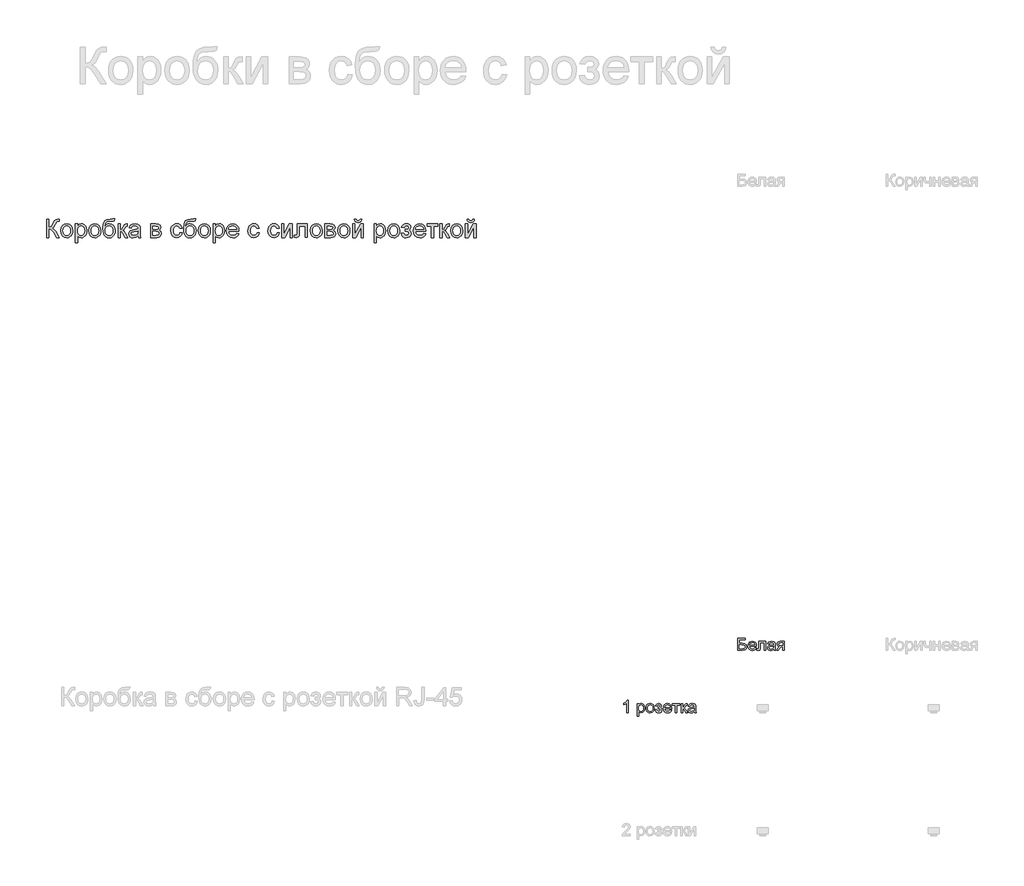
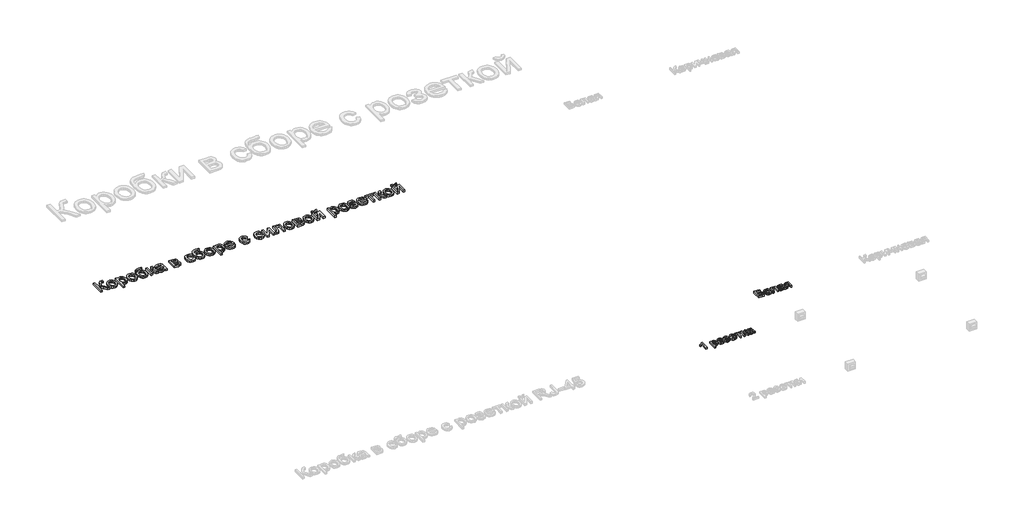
# One storey, part 42 of 48: 3 proxies.
"""IFC4 building model written with IfcOpenShell, lengths in millimetres."""

from ifc_helpers import new_model, si_unit, origin, origin_with_axes, place, context, project, spatial, polyline, outline, extrude, element, save

model = new_model("IFC4")

# Units and contexts
model_context = context("Model", 3, world=origin())
ifc_project = project(units=[si_unit("LENGTHUNIT", "METRE", prefix="MILLI")], contexts=[model_context])

# Site, building, storey
site = spatial("IfcSite", under=ifc_project)
building = spatial("IfcBuilding", under=site)
storey = spatial("IfcBuildingStorey", under=building, Name="Этаж 01", Elevation=0.0)

# Proxies
placement = place(None, origin())
element("IfcBuildingElementProxy", 1, Name="150 мм Arial", ObjectType="150 мм Arial", at=placement, inside=storey, context=model_context, shape_type="SweptSolid", body=[
    extrude(outline(polyline([(53865.2702131, 4103.1517757), (53884.1057713, 4103.1517757), (53884.1057713, 4037.2273222), (53896.8574809, 4038.4735224), (53905.1670155, 4042.2121232), (53919.8639012, 4067.430434), (53930.2565676, 4088.4916782), (53942.0287914, 4098.9211328), (53958.8593927, 4103.1517757), (53971.2202277, 4102.9310465), (53971.2202277, 4084.0954884), (53967.0631612, 4084.205853), (53962.9060947, 4084.3162176), (53948.1908148, 4079.791269), (53937.0072022, 4060.4038879), (53923.6714799, 4036.7858638), (53910.6668513, 4028.9867655), (53925.2073872, 4020.4702973), (53939.545588, 4002.719991), (53971.2202277, 3952.4673105), (53949.3680372, 3952.4673105), (53922.586228, 3994.9208927), (53903.7322757, 4017.0857829), (53895.027268, 4021.5969359), (53884.1057713, 4023.1006536), (53884.1057713, 3952.4673105), (53865.2702131, 3952.4673105), (53865.2702131, 4103.1517757)])), origin_with_axes(), (0.0, 0.0, 1.0), 20.0),
    extrude(outline(polyline([(53980.6380068, 4007.7967626), (53984.7122999, 4034.4774043), (53996.9351792, 4053.230189), (54012.0367351, 4062.4180418), (54030.1181352, 4065.4806594), (54049.905588, 4061.7512557), (54065.7107182, 4050.5630445), (54076.0711949, 4032.7989427), (54079.5246871, 4009.3418669), (54077.9979768, 3990.3131707), (54073.417846, 3975.8278172), (54065.9176518, 3964.9798969), (54055.6307515, 3956.8635003), (54043.4124708, 3951.8005244), (54030.1181352, 3950.1128657), (54010.0915591, 3953.8284739), (53994.3048229, 3964.9752983), (53984.0547108, 3983.1118807), (53980.6380068, 4007.7967626)]), holes=[polyline([(53999.473565, 4007.8335508), (54001.6532658, 3990.7868188), (54008.1923683, 3978.6421144), (54018.0332116, 3971.3718465), (54030.1181352, 3968.9484239), (54042.1478764, 3971.3856421), (54051.9703257, 3978.6972967), (54058.5094281, 3991.0029495), (54060.689129, 4008.422162), (54058.4956326, 4024.9722532), (54051.9151434, 4036.9514107), (54042.0788985, 4044.2216786), (54030.1181352, 4046.6451013), (54018.0332116, 4044.2308757), (54008.1923683, 4036.9881989), (54001.6532658, 4024.8710857), (53999.473565, 4007.8335508)])]), origin_with_axes(), (0.0, 0.0, 1.0), 20.0),
    extrude(outline(polyline([(54100.71469, 3910.0873046), (54100.71469, 4063.1262146), (54119.5502482, 4063.1262146), (54119.5502482, 4044.6585385), (54132.5732708, 4060.2751292), (54150.1580302, 4065.4806594), (54162.8959443, 4063.6596435), (54174.0335717, 4058.1965959), (54183.1018629, 4049.4226103), (54189.6317683, 4037.6687806), (54194.8924808, 4008.6428912), (54193.4071573, 3992.5342583), (54188.9511866, 3978.1270797), (54181.6671231, 3966.1525207), (54171.697521, 3957.3417469), (54160.0862455, 3951.920086), (54147.8771618, 3950.1128657), (54131.4880189, 3954.950514), (54119.5502482, 3967.1825903), (54119.5502482, 3910.0873046), (54100.71469, 3910.0873046)]), holes=[polyline([(54119.5502482, 4006.9138458), (54121.5873947, 3990.0280622), (54127.6988344, 3978.2190502), (54136.7165418, 3971.2660804), (54147.4724916, 3968.9484239), (54158.4031854, 3971.3488539), (54167.6508191, 3978.5501439), (54173.9553968, 3990.7914173), (54176.0569227, 4008.3117974), (54174.0059805, 4025.1056104), (54167.8531542, 4037.0801694), (54158.8492423, 4044.2538683), (54148.2450438, 4046.6451013), (54137.5994586, 4044.102117), (54128.2506574, 4036.4731641), (54121.7253505, 4023.9973659), (54119.5502482, 4006.9138458)])]), origin_with_axes(), (0.0, 0.0, 1.0), 20.0),
    extrude(outline(polyline([(54211.3735942, 4007.7967626), (54215.4478873, 4034.4774043), (54227.6707666, 4053.230189), (54242.7723225, 4062.4180418), (54260.8537225, 4065.4806594), (54280.6411754, 4061.7512557), (54296.4463056, 4050.5630445), (54306.8067823, 4032.7989427), (54310.2602745, 4009.3418669), (54308.7335642, 3990.3131707), (54304.1534334, 3975.8278172), (54296.6532392, 3964.9798969), (54286.3663389, 3956.8635003), (54274.1480581, 3951.8005244), (54260.8537225, 3950.1128657), (54240.8271464, 3953.8284739), (54225.0404103, 3964.9752983), (54214.7902982, 3983.1118807), (54211.3735942, 4007.7967626)]), holes=[polyline([(54230.2091523, 4007.8335508), (54232.3888532, 3990.7868188), (54238.9279556, 3978.6421144), (54248.768799, 3971.3718465), (54260.8537225, 3968.9484239), (54272.8834638, 3971.3856421), (54282.7059131, 3978.6972967), (54289.2450155, 3991.0029495), (54291.4247163, 4008.422162), (54289.2312199, 4024.9722532), (54282.6507308, 4036.9514107), (54272.8144859, 4044.2216786), (54260.8537225, 4046.6451013), (54248.768799, 4044.2308757), (54238.9279556, 4036.9881989), (54232.3888532, 4024.8710857), (54230.2091523, 4007.8335508)])]), origin_with_axes(), (0.0, 0.0, 1.0), 20.0),
    extrude(outline(polyline([(54409.1469548, 4105.5062205), (54425.6280682, 4105.5062205), (54420.7720258, 4090.8093348), (54411.1703058, 4085.4934399), (54388.1041047, 4084.3162176), (54357.0364702, 4079.97521), (54349.9087565, 4074.3282214), (54345.1170935, 4066.0692706), (54341.0887857, 4041.4579651), (54357.4043522, 4059.4841829), (54367.3233705, 4063.9815403), (54378.4288082, 4065.4806594), (54398.0277215, 4061.6684822), (54413.9294207, 4050.2319507), (54424.4692399, 4032.2931049), (54427.982513, 4008.9739849), (54426.239672, 3990.9937524), (54421.0111491, 3976.5635812), (54404.4748535, 3957.0106531), (54393.1808762, 3951.8373126), (54378.4288082, 3950.1128657), (54361.4280615, 3952.3339533), (54348.6855489, 3958.9972159), (54339.3091565, 3969.1231678), (54332.4067706, 3981.7323232), (54328.1577336, 4000.7196327), (54326.7413879, 4029.9800469), (54330.3144418, 4066.1198544), (54341.0336034, 4088.1605844), (54359.1655872, 4099.4039779), (54384.9771077, 4103.1517757), (54405.9463814, 4103.57484), (54409.1469548, 4105.5062205)]), holes=[polyline([(54409.1469548, 4009.5625961), (54407.1052097, 4024.383642), (54400.9799745, 4036.2524349), (54391.1391311, 4044.0469347), (54377.9505616, 4046.6451013), (54364.200972, 4043.8997819), (54354.0014437, 4035.6638237), (54347.6830705, 4022.8385376), (54345.576946, 4006.3252346), (54347.9037997, 3990.3177693), (54354.8843605, 3978.568538), (54365.2770269, 3971.3534524), (54377.840197, 3968.9484239), (54390.4677465, 3971.7305315), (54400.4649397, 3980.0768542), (54406.976451, 3993.0125049), (54409.1469548, 4009.5625961)])]), origin_with_axes(), (0.0, 0.0, 1.0), 20.0),
    extrude(outline(polyline([(54451.5269606, 4063.1262146), (54470.3625188, 4063.1262146), (54470.3625188, 4016.0373193), (54482.9808712, 4019.4218336), (54493.3183553, 4039.1403086), (54501.9083999, 4056.1548508), (54509.486769, 4061.6914749), (54523.2639497, 4063.1262146), (54526.8691933, 4063.1262146), (54526.8691933, 4044.1802919), (54521.7924217, 4044.2906565), (54512.5953718, 4042.3040937), (54506.1206487, 4029.9064705), (54498.5238855, 4016.4971718), (54487.8737018, 4009.9304781), (54499.7562902, 4002.6004294), (54511.4181495, 3987.1585826), (54531.5780828, 3952.4673105), (54510.1673507, 3952.4673105), (54490.4120875, 3986.4228186), (54480.4792737, 4000.7886106), (54470.3625188, 4004.2650954), (54470.3625188, 3952.4673105), (54451.5269606, 3952.4673105), (54451.5269606, 4063.1262146)])), origin_with_axes(), (0.0, 0.0, 1.0), 20.0),
    extrude(outline(polyline([(54613.9836497, 3966.5939791), (54595.7183087, 3953.8284739), (54575.5399812, 3950.1128657), (54559.7992304, 3952.3477488), (54548.1879549, 3959.0523982), (54541.0280515, 3969.2335324), (54538.6414171, 3981.8978701), (54542.2466607, 3996.7970909), (54551.719622, 4007.6128216), (54564.9081916, 4013.7932391), (54581.2053639, 4016.6259304), (54613.8732851, 4023.1006536), (54613.9836497, 4027.2945083), (54612.6868657, 4035.7006119), (54608.7965136, 4041.2004477), (54600.0961044, 4045.2839379), (54587.9743927, 4046.6451013), (54568.9181053, 4043.0214636), (54559.83142, 4030.1639879), (54540.9958619, 4032.5184326), (54549.1444481, 4050.9125324), (54565.551985, 4061.6914749), (54590.4024138, 4065.4806594), (54613.2294916, 4062.1329333), (54626.1237556, 4053.7268297), (54631.8995029, 4040.9429303), (54632.8192079, 4024.4618169), (54632.8192079, 4001.0277339), (54633.7757011, 3968.3046304), (54637.5280974, 3952.4673105), (54618.6925393, 3952.4673105), (54613.9836497, 3966.5939791)]), holes=[polyline([(54613.9836497, 4004.2650954), (54583.5965969, 3998.4893481), (54567.391395, 3995.4359275), (54560.0521492, 3990.4695206), (54557.4769753, 3983.2222453), (54563.0871757, 3973.031914), (54579.549895, 3968.9484239), (54598.6061823, 3973.4549783), (54610.893441, 3984.3626795), (54613.8732851, 3998.9308065), (54613.9836497, 4004.2650954)])]), origin_with_axes(), (0.0, 0.0, 1.0), 20.0),
    extrude(outline(polyline([(54717.5792196, 4063.1262146), (54759.0763086, 4063.1262146), (54781.82981, 4060.606223), (54794.6321034, 4051.3723849), (54799.9847865, 4035.2775476), (54796.7474249, 4022.1993427), (54786.998552, 4012.8735341), (54799.6536927, 4002.6648087), (54804.693676, 3984.9145025), (54801.5022997, 3970.5579076), (54793.9147336, 3960.4503498), (54781.9033864, 3954.4630703), (54765.4406671, 3952.4673105), (54717.5792196, 3952.4673105), (54717.5792196, 4063.1262146)]), holes=[polyline([(54736.4147777, 4020.7462088), (54755.0296067, 4020.7462088), (54770.38868, 4021.702702), (54777.8566845, 4025.5286747), (54781.1492283, 4032.4448562), (54779.7052915, 4038.0642537), (54775.373481, 4041.6786943), (54755.6182179, 4044.2906565), (54736.4147777, 4044.2906565), (54736.4147777, 4020.7462088)]), polyline([(54736.4147777, 3971.3028686), (54759.517767, 3971.3028686), (54780.0087941, 3974.7057771), (54784.2486341, 3979.3456888), (54785.8581179, 3986.4596068), (54782.6391504, 3995.527898), (54774.2514409, 4000.8070047), (54757.678357, 4001.9106506), (54736.4147777, 4001.9106506), (54736.4147777, 3971.3028686)])]), origin_with_axes(), (0.0, 0.0, 1.0), 20.0),
    extrude(outline(polyline([(54957.732586, 3992.4928716), (54976.5681442, 3990.1384268), (54971.3166287, 3973.3860004), (54961.4481942, 3960.7262613), (54947.8917426, 3952.7662146), (54931.5761762, 3950.1128657), (54911.540403, 3953.8146783), (54895.8732285, 3964.920116), (54885.7610722, 3982.9417353), (54882.3903534, 4007.3920924), (54883.8296917, 4024.1537158), (54888.1477066, 4038.6804561), (54895.413376, 4050.4112932), (54905.6956778, 4058.7852071), (54917.996732, 4063.8067963), (54931.3186588, 4065.4806594), (54947.2341536, 4063.1813969), (54959.9582721, 4056.2836095), (54969.0863441, 4045.1551792), (54974.2136994, 4030.1639879), (54955.3781412, 4027.8095431), (54946.6409439, 4041.9178176), (54931.4658116, 4046.6451013), (54919.293516, 4044.3182476), (54909.6320151, 4037.3376868), (54903.3274374, 4025.3263396), (54901.2259115, 4007.9071272), (54903.2814522, 3990.2533899), (54909.4480741, 3978.2006561), (54918.9348311, 3971.2614819), (54930.9507768, 3968.9484239), (54940.7042482, 3970.3923607), (54948.701083, 3974.7241712), (54954.5182171, 3982.05422), (54957.732586, 3992.4928716)])), origin_with_axes(), (0.0, 0.0, 1.0), 20.0),
    extrude(outline(polyline([(55070.7459349, 4105.5062205), (55087.2270483, 4105.5062205), (55082.371006, 4090.8093348), (55072.7692859, 4085.4934399), (55049.7030848, 4084.3162176), (55018.6354503, 4079.97521), (55011.5077367, 4074.3282214), (55006.7160737, 4066.0692706), (55002.6877658, 4041.4579651), (55019.0033323, 4059.4841829), (55028.9223506, 4063.9815403), (55040.0277883, 4065.4806594), (55059.6267016, 4061.6684822), (55075.5284009, 4050.2319507), (55086.06822, 4032.2931049), (55089.5814931, 4008.9739849), (55087.8386521, 3990.9937524), (55082.6101293, 3976.5635812), (55066.0738336, 3957.0106531), (55054.7798563, 3951.8373126), (55040.0277883, 3950.1128657), (55023.0270416, 3952.3339533), (55010.284529, 3958.9972159), (55000.9081367, 3969.1231678), (54994.0057507, 3981.7323232), (54989.7567137, 4000.7196327), (54988.340368, 4029.9800469), (54991.9134219, 4066.1198544), (55002.6325835, 4088.1605844), (55020.7645674, 4099.4039779), (55046.5760878, 4103.1517757), (55067.5453616, 4103.57484), (55070.7459349, 4105.5062205)]), holes=[polyline([(55070.7459349, 4009.5625961), (55068.7041899, 4024.383642), (55062.5789546, 4036.2524349), (55052.7381113, 4044.0469347), (55039.5495417, 4046.6451013), (55025.7999522, 4043.8997819), (55015.6004238, 4035.6638237), (55009.2820506, 4022.8385376), (55007.1759262, 4006.3252346), (55009.5027798, 3990.3177693), (55016.4833406, 3978.568538), (55026.876007, 3971.3534524), (55039.4391771, 3968.9484239), (55052.0667266, 3971.7305315), (55062.0639198, 3980.0768542), (55068.5754312, 3993.0125049), (55070.7459349, 4009.5625961)])]), origin_with_axes(), (0.0, 0.0, 1.0), 20.0),
    extrude(outline(polyline([(55108.4170512, 4007.7967626), (55112.4913443, 4034.4774043), (55124.7142236, 4053.230189), (55139.8157795, 4062.4180418), (55157.8971796, 4065.4806594), (55177.6846324, 4061.7512557), (55193.4897626, 4050.5630445), (55203.8502393, 4032.7989427), (55207.3037315, 4009.3418669), (55205.7770213, 3990.3131707), (55201.1968904, 3975.8278172), (55193.6966962, 3964.9798969), (55183.4097959, 3956.8635003), (55171.1915152, 3951.8005244), (55157.8971796, 3950.1128657), (55137.8706035, 3953.8284739), (55122.0838674, 3964.9752983), (55111.8337553, 3983.1118807), (55108.4170512, 4007.7967626)]), holes=[polyline([(55127.2526094, 4007.8335508), (55129.4323102, 3990.7868188), (55135.9714127, 3978.6421144), (55145.812256, 3971.3718465), (55157.8971796, 3968.9484239), (55169.9269208, 3971.3856421), (55179.7493701, 3978.6972967), (55186.2884726, 3991.0029495), (55188.4681734, 4008.422162), (55186.274677, 4024.9722532), (55179.6941878, 4036.9514107), (55169.857943, 4044.2216786), (55157.8971796, 4046.6451013), (55145.812256, 4044.2308757), (55135.9714127, 4036.9881989), (55129.4323102, 4024.8710857), (55127.2526094, 4007.8335508)])]), origin_with_axes(), (0.0, 0.0, 1.0), 20.0),
    extrude(outline(polyline([(55228.4937345, 3910.0873046), (55228.4937345, 4063.1262146), (55247.3292926, 4063.1262146), (55247.3292926, 4044.6585385), (55260.3523152, 4060.2751292), (55277.9370746, 4065.4806594), (55290.6749887, 4063.6596435), (55301.8126161, 4058.1965959), (55310.8809073, 4049.4226103), (55317.4108127, 4037.6687806), (55322.6715252, 4008.6428912), (55321.1862017, 3992.5342583), (55316.730231, 3978.1270797), (55309.4461675, 3966.1525207), (55299.4765654, 3957.3417469), (55287.86529, 3951.920086), (55275.6562062, 3950.1128657), (55259.2670634, 3954.950514), (55247.3292926, 3967.1825903), (55247.3292926, 3910.0873046), (55228.4937345, 3910.0873046)]), holes=[polyline([(55247.3292926, 4006.9138458), (55249.3664392, 3990.0280622), (55255.4778788, 3978.2190502), (55264.4955862, 3971.2660804), (55275.251536, 3968.9484239), (55286.1822298, 3971.3488539), (55295.4298635, 3978.5501439), (55301.7344412, 3990.7914173), (55303.8359671, 4008.3117974), (55301.7850249, 4025.1056104), (55295.6321986, 4037.0801694), (55286.6282867, 4044.2538683), (55276.0240882, 4046.6451013), (55265.378503, 4044.102117), (55256.0297018, 4036.4731641), (55249.5043949, 4023.9973659), (55247.3292926, 4006.9138458)])]), origin_with_axes(), (0.0, 0.0, 1.0), 20.0),
    extrude(outline(polyline([(55421.3374763, 3985.4295373), (55439.8051525, 3983.0750925), (55433.1510869, 3969.159956), (55422.5330928, 3958.7580926), (55408.1902935, 3952.2741724), (55390.3618123, 3950.1128657), (55368.2613015, 3953.8422694), (55351.2559562, 3965.0304806), (55340.4126344, 3982.9509323), (55336.7981938, 4006.8770576), (55340.4494226, 4031.6079247), (55351.403109, 4050.103192), (55368.178528, 4061.6362926), (55389.2949545, 4065.4806594), (55409.753792, 4061.6454896), (55426.1015482, 4050.1399802), (55436.8207098, 4031.6815011), (55440.3937637, 4006.9874222), (55440.2833991, 4001.9106506), (55355.633752, 4001.9106506), (55358.8941062, 3987.8115732), (55366.4678767, 3977.446498), (55377.3985705, 3971.0729424), (55390.7296943, 3968.9484239), (55409.1973705, 3972.8847612), (55421.3374763, 3985.4295373)]), holes=[polyline([(55355.633752, 4020.7462088), (55421.5582055, 4020.7462088), (55419.0106227, 4030.6974168), (55414.0166246, 4037.8159334), (55403.0353471, 4044.4378093), (55389.2213782, 4046.6451013), (55376.5248508, 4044.8838662), (55366.0264184, 4039.600161), (55358.7285593, 4031.3642029), (55355.633752, 4020.7462088)])]), origin_with_axes(), (0.0, 0.0, 1.0), 20.0),
    extrude(outline(polyline([(55588.7237841, 3992.4928716), (55607.5593423, 3990.1384268), (55602.3078268, 3973.3860004), (55592.4393923, 3960.7262613), (55578.8829408, 3952.7662146), (55562.5673743, 3950.1128657), (55542.5316011, 3953.8146783), (55526.8644266, 3964.920116), (55516.7522703, 3982.9417353), (55513.3815515, 4007.3920924), (55514.8208898, 4024.1537158), (55519.1389047, 4038.6804561), (55526.4045742, 4050.4112932), (55536.6868759, 4058.7852071), (55548.9879301, 4063.8067963), (55562.3098569, 4065.4806594), (55578.2253517, 4063.1813969), (55590.9494702, 4056.2836095), (55600.0775422, 4045.1551792), (55605.2048975, 4030.1639879), (55586.3693394, 4027.8095431), (55577.632142, 4041.9178176), (55562.4570097, 4046.6451013), (55550.2847142, 4044.3182476), (55540.6232133, 4037.3376868), (55534.3186356, 4025.3263396), (55532.2171097, 4007.9071272), (55534.2726503, 3990.2533899), (55540.4392723, 3978.2006561), (55549.9260292, 3971.2614819), (55561.9419749, 3968.9484239), (55571.6954463, 3970.3923607), (55579.6922812, 3974.7241712), (55585.5094152, 3982.05422), (55588.7237841, 3992.4928716)])), origin_with_axes(), (0.0, 0.0, 1.0), 20.0),
    extrude(outline(polyline([(55753.534918, 3992.4928716), (55772.3704761, 3990.1384268), (55767.1189606, 3973.3860004), (55757.2505261, 3960.7262613), (55743.6940746, 3952.7662146), (55727.3785081, 3950.1128657), (55707.342735, 3953.8146783), (55691.6755605, 3964.920116), (55681.5634041, 3982.9417353), (55678.1926854, 4007.3920924), (55679.6320237, 4024.1537158), (55683.9500386, 4038.6804561), (55691.215708, 4050.4112932), (55701.4980098, 4058.7852071), (55713.799064, 4063.8067963), (55727.1209907, 4065.4806594), (55743.0364855, 4063.1813969), (55755.760604, 4056.2836095), (55764.8886761, 4045.1551792), (55770.0160314, 4030.1639879), (55751.1804732, 4027.8095431), (55742.4432758, 4041.9178176), (55727.2681435, 4046.6451013), (55715.095848, 4044.3182476), (55705.4343471, 4037.3376868), (55699.1297694, 4025.3263396), (55697.0282435, 4007.9071272), (55699.0837842, 3990.2533899), (55705.2504061, 3978.2006561), (55714.7371631, 3971.2614819), (55726.7531087, 3968.9484239), (55736.5065801, 3970.3923607), (55744.503415, 3974.7241712), (55750.320549, 3982.05422), (55753.534918, 3992.4928716)])), origin_with_axes(), (0.0, 0.0, 1.0), 20.0),
    extrude(outline(polyline([(55788.8515895, 4063.1262146), (55807.6871477, 4063.1262146), (55807.6871477, 3978.7340849), (55853.9667027, 4063.1262146), (55878.3204907, 4063.1262146), (55878.3204907, 3952.4673105), (55859.4849326, 3952.4673105), (55859.4849326, 4036.3444054), (55813.4996832, 3952.4673105), (55788.8515895, 3952.4673105), (55788.8515895, 4063.1262146)])), origin_with_axes(), (0.0, 0.0, 1.0), 20.0),
    extrude(outline(polyline([(55915.991607, 4063.1262146), (56000.7516187, 4063.1262146), (56000.7516187, 3952.5776751), (55981.9160606, 3952.5776751), (55981.9160606, 4044.2906565), (55934.8271652, 4044.2906565), (55934.8271652, 3991.4995902), (55933.5579723, 3967.1458021), (55926.5866085, 3956.8635003), (55910.1054951, 3952.4673105), (55894.8016041, 3953.4238037), (55894.8016041, 3971.3028686), (55903.2261018, 3971.3028686), (55911.74257, 3972.4616969), (55915.1454785, 3976.1405169), (55915.991607, 3992.566448), (55915.991607, 4063.1262146)])), origin_with_axes(), (0.0, 0.0, 1.0), 20.0),
    extrude(outline(polyline([(56024.2960664, 4007.7967626), (56028.3703595, 4034.4774043), (56040.5932388, 4053.230189), (56055.6947947, 4062.4180418), (56073.7761948, 4065.4806594), (56093.5636476, 4061.7512557), (56109.3687778, 4050.5630445), (56119.7292545, 4032.7989427), (56123.1827467, 4009.3418669), (56121.6560364, 3990.3131707), (56117.0759056, 3975.8278172), (56109.5757114, 3964.9798969), (56099.2888111, 3956.8635003), (56087.0705304, 3951.8005244), (56073.7761948, 3950.1128657), (56053.7496187, 3953.8284739), (56037.9628825, 3964.9752983), (56027.7127705, 3983.1118807), (56024.2960664, 4007.7967626)]), holes=[polyline([(56043.1316246, 4007.8335508), (56045.3113254, 3990.7868188), (56051.8504279, 3978.6421144), (56061.6912712, 3971.3718465), (56073.7761948, 3968.9484239), (56085.805936, 3971.3856421), (56095.6283853, 3978.6972967), (56102.1674878, 3991.0029495), (56104.3471886, 4008.422162), (56102.1536922, 4024.9722532), (56095.573203, 4036.9514107), (56085.7369581, 4044.2216786), (56073.7761948, 4046.6451013), (56061.6912712, 4044.2308757), (56051.8504279, 4036.9881989), (56045.3113254, 4024.8710857), (56043.1316246, 4007.8335508)])]), origin_with_axes(), (0.0, 0.0, 1.0), 20.0),
    extrude(outline(polyline([(56144.3727497, 4063.1262146), (56185.8698387, 4063.1262146), (56208.6233401, 4060.606223), (56221.4256335, 4051.3723849), (56226.7783166, 4035.2775476), (56223.540955, 4022.1993427), (56213.7920821, 4012.8735341), (56226.4472228, 4002.6648087), (56231.4872061, 3984.9145025), (56228.2958298, 3970.5579076), (56220.7082636, 3960.4503498), (56208.6969165, 3954.4630703), (56192.2341972, 3952.4673105), (56144.3727497, 3952.4673105), (56144.3727497, 4063.1262146)]), holes=[polyline([(56163.2083078, 4020.7462088), (56181.8231368, 4020.7462088), (56197.1822101, 4021.702702), (56204.6502146, 4025.5286747), (56207.9427584, 4032.4448562), (56206.4988216, 4038.0642537), (56202.1670111, 4041.6786943), (56182.411748, 4044.2906565), (56163.2083078, 4044.2906565), (56163.2083078, 4020.7462088)]), polyline([(56163.2083078, 3971.3028686), (56186.3112971, 3971.3028686), (56206.8023242, 3974.7057771), (56211.0421642, 3979.3456888), (56212.651648, 3986.4596068), (56209.4326805, 3995.527898), (56201.044971, 4000.8070047), (56184.4718871, 4001.9106506), (56163.2083078, 4001.9106506), (56163.2083078, 3971.3028686)])]), origin_with_axes(), (0.0, 0.0, 1.0), 20.0),
    extrude(outline(polyline([(56250.3227643, 4007.7967626), (56254.3970574, 4034.4774043), (56266.6199366, 4053.230189), (56281.7214925, 4062.4180418), (56299.8028926, 4065.4806594), (56319.5903454, 4061.7512557), (56335.3954756, 4050.5630445), (56345.7559523, 4032.7989427), (56349.2094446, 4009.3418669), (56347.6827343, 3990.3131707), (56343.1026034, 3975.8278172), (56335.6024093, 3964.9798969), (56325.315509, 3956.8635003), (56313.0972282, 3951.8005244), (56299.8028926, 3950.1128657), (56279.7763165, 3953.8284739), (56263.9895804, 3964.9752983), (56253.7394683, 3983.1118807), (56250.3227643, 4007.7967626)]), holes=[polyline([(56269.1583224, 4007.8335508), (56271.3380232, 3990.7868188), (56277.8771257, 3978.6421144), (56287.7179691, 3971.3718465), (56299.8028926, 3968.9484239), (56311.8326339, 3971.3856421), (56321.6550831, 3978.6972967), (56328.1941856, 3991.0029495), (56330.3738864, 4008.422162), (56328.18039, 4024.9722532), (56321.5999008, 4036.9514107), (56311.763656, 4044.2216786), (56299.8028926, 4046.6451013), (56287.7179691, 4044.2308757), (56277.8771257, 4036.9881989), (56271.3380232, 4024.8710857), (56269.1583224, 4007.8335508)])]), origin_with_axes(), (0.0, 0.0, 1.0), 20.0),
    extrude(outline(polyline([(56370.3994475, 4063.1262146), (56389.2350056, 4063.1262146), (56389.2350056, 3978.7340849), (56435.5145606, 4063.1262146), (56459.8683487, 4063.1262146), (56459.8683487, 3952.4673105), (56441.0327906, 3952.4673105), (56441.0327906, 4036.3444054), (56395.0475412, 3952.4673105), (56370.3994475, 3952.4673105), (56370.3994475, 4063.1262146)])), origin_with_axes(), (0.0, 0.0, 1.0), 20.0),
    extrude(outline(polyline([(56431.6150115, 4103.1517757), (56445.7416801, 4103.1517757), (56442.7020551, 4091.0898448), (56436.5998125, 4082.2008961), (56427.7108638, 4076.7240529), (56416.3111205, 4074.8984385), (56403.9410884, 4076.7102573), (56394.3485654, 4082.1457138), (56387.7910688, 4091.0208669), (56384.5261161, 4103.1517757), (56398.6527847, 4103.1517757), (56403.9502854, 4092.5383802), (56414.6188633, 4089.0251071), (56426.3175108, 4092.4280156), (56431.6150115, 4103.1517757)])), origin_with_axes(), (0.0, 0.0, 1.0), 20.0),
    extrude(outline(polyline([(56546.9828052, 3910.0873046), (56546.9828052, 4063.1262146), (56565.8183633, 4063.1262146), (56565.8183633, 4044.6585385), (56578.841386, 4060.2751292), (56596.4261453, 4065.4806594), (56609.1640594, 4063.6596435), (56620.3016868, 4058.1965959), (56629.369978, 4049.4226103), (56635.8998834, 4037.6687806), (56641.1605959, 4008.6428912), (56639.6752724, 3992.5342583), (56635.2193017, 3978.1270797), (56627.9352382, 3966.1525207), (56617.9656361, 3957.3417469), (56606.3543607, 3951.920086), (56594.145277, 3950.1128657), (56577.7561341, 3954.950514), (56565.8183633, 3967.1825903), (56565.8183633, 3910.0873046), (56546.9828052, 3910.0873046)]), holes=[polyline([(56565.8183633, 4006.9138458), (56567.8555099, 3990.0280622), (56573.9669495, 3978.2190502), (56582.9846569, 3971.2660804), (56593.7406068, 3968.9484239), (56604.6713005, 3971.3488539), (56613.9189342, 3978.5501439), (56620.2235119, 3990.7914173), (56622.3250378, 4008.3117974), (56620.2740957, 4025.1056104), (56614.1212693, 4037.0801694), (56605.1173575, 4044.2538683), (56594.5131589, 4046.6451013), (56583.8675737, 4044.102117), (56574.5187725, 4036.4731641), (56567.9934656, 4023.9973659), (56565.8183633, 4006.9138458)])]), origin_with_axes(), (0.0, 0.0, 1.0), 20.0),
    extrude(outline(polyline([(56657.6417093, 4007.7967626), (56661.7160024, 4034.4774043), (56673.9388817, 4053.230189), (56689.0404376, 4062.4180418), (56707.1218377, 4065.4806594), (56726.9092905, 4061.7512557), (56742.7144207, 4050.5630445), (56753.0748974, 4032.7989427), (56756.5283896, 4009.3418669), (56755.0016793, 3990.3131707), (56750.4215485, 3975.8278172), (56742.9213543, 3964.9798969), (56732.634454, 3956.8635003), (56720.4161733, 3951.8005244), (56707.1218377, 3950.1128657), (56687.0952616, 3953.8284739), (56671.3085254, 3964.9752983), (56661.0584134, 3983.1118807), (56657.6417093, 4007.7967626)]), holes=[polyline([(56676.4772675, 4007.8335508), (56678.6569683, 3990.7868188), (56685.1960708, 3978.6421144), (56695.0369141, 3971.3718465), (56707.1218377, 3968.9484239), (56719.1515789, 3971.3856421), (56728.9740282, 3978.6972967), (56735.5131307, 3991.0029495), (56737.6928315, 4008.422162), (56735.4993351, 4024.9722532), (56728.9188459, 4036.9514107), (56719.082601, 4044.2216786), (56707.1218377, 4046.6451013), (56695.0369141, 4044.2308757), (56685.1960708, 4036.9881989), (56678.6569683, 4024.8710857), (56676.4772675, 4007.8335508)])]), origin_with_axes(), (0.0, 0.0, 1.0), 20.0),
    extrude(outline(polyline([(56803.617285, 4001.9106506), (56803.617285, 4020.7462088), (56818.4797176, 4021.4819728), (56825.9845103, 4025.399916), (56829.5161775, 4033.5852904), (56824.7888938, 4043.09504), (56812.5936057, 4046.6451013), (56799.9936474, 4043.1134341), (56791.8450612, 4032.5184326), (56770.6550582, 4034.8728774), (56776.2744557, 4048.263782), (56784.8185151, 4057.8287139), (56796.2872363, 4063.567673), (56810.6806193, 4065.4806594), (56826.4259687, 4063.1492073), (56838.3453454, 4056.1548508), (56845.8501381, 4045.9231328), (56848.3517356, 4033.879596), (56844.7924773, 4022.1809486), (56834.1147024, 4013.1310515), (56846.5675079, 4001.3956158), (56850.7061804, 3984.5098323), (56848.0804226, 3970.6452796), (56840.2031494, 3959.6594035), (56827.6077896, 3952.4995002), (56810.8277721, 3950.1128657), (56794.4156366, 3952.3201577), (56781.857065, 3958.9420336), (56773.1520573, 3969.9784935), (56768.3006135, 3985.4295373), (56789.4906164, 3987.783982), (56797.9886905, 3973.8780426), (56812.6303939, 3968.9484239), (56826.3891805, 3973.6757075), (56831.8706222, 3985.7606311), (56828.4677138, 3995.6566567), (56821.2204385, 4000.9541575), (56807.296105, 4002.0210152), (56803.617285, 4001.9106506)])), origin_with_axes(), (0.0, 0.0, 1.0), 20.0),
    extrude(outline(polyline([(56951.7265763, 3985.4295373), (56970.1942524, 3983.0750925), (56963.5401868, 3969.159956), (56952.9221927, 3958.7580926), (56938.5793935, 3952.2741724), (56920.7509123, 3950.1128657), (56898.6504014, 3953.8422694), (56881.6450562, 3965.0304806), (56870.8017344, 3982.9509323), (56867.1872938, 4006.8770576), (56870.8385226, 4031.6079247), (56881.792209, 4050.103192), (56898.567628, 4061.6362926), (56919.6840545, 4065.4806594), (56940.1428919, 4061.6454896), (56956.4906481, 4050.1399802), (56967.2098097, 4031.6815011), (56970.7828636, 4006.9874222), (56970.672499, 4001.9106506), (56886.0228519, 4001.9106506), (56889.2832061, 3987.8115732), (56896.8569767, 3977.446498), (56907.7876705, 3971.0729424), (56921.1187943, 3968.9484239), (56939.5864704, 3972.8847612), (56951.7265763, 3985.4295373)]), holes=[polyline([(56886.0228519, 4020.7462088), (56951.9473055, 4020.7462088), (56949.3997226, 4030.6974168), (56944.4057246, 4037.8159334), (56933.424447, 4044.4378093), (56919.6104781, 4046.6451013), (56906.9139507, 4044.8838662), (56896.4155183, 4039.600161), (56889.1176592, 4031.3642029), (56886.0228519, 4020.7462088)])]), origin_with_axes(), (0.0, 0.0, 1.0), 20.0),
    extrude(outline(polyline([(56980.2006427, 4063.1262146), (57069.6695439, 4063.1262146), (57069.6695439, 4044.2906565), (57034.3528724, 4044.2906565), (57034.3528724, 3952.4673105), (57015.5173142, 3952.4673105), (57015.5173142, 4044.2906565), (56980.2006427, 4044.2906565), (56980.2006427, 4063.1262146)])), origin_with_axes(), (0.0, 0.0, 1.0), 20.0),
    extrude(outline(polyline([(57086.1506573, 4063.1262146), (57104.9862155, 4063.1262146), (57104.9862155, 4016.0373193), (57117.6045679, 4019.4218336), (57127.942052, 4039.1403086), (57136.5320965, 4056.1548508), (57144.1104656, 4061.6914749), (57157.8876464, 4063.1262146), (57161.4928899, 4063.1262146), (57161.4928899, 4044.1802919), (57156.4161184, 4044.2906565), (57147.2190685, 4042.3040937), (57140.7443454, 4029.9064705), (57133.1475822, 4016.4971718), (57122.4973984, 4009.9304781), (57134.3799869, 4002.6004294), (57146.0418461, 3987.1585826), (57166.2017795, 3952.4673105), (57144.7910473, 3952.4673105), (57125.0357842, 3986.4228186), (57115.1029703, 4000.7886106), (57104.9862155, 4004.2650954), (57104.9862155, 3952.4673105), (57086.1506573, 3952.4673105), (57086.1506573, 4063.1262146)])), origin_with_axes(), (0.0, 0.0, 1.0), 20.0),
    extrude(outline(polyline([(57173.2651138, 4007.7967626), (57177.3394069, 4034.4774043), (57189.5622861, 4053.230189), (57204.663842, 4062.4180418), (57222.7452421, 4065.4806594), (57242.5326949, 4061.7512557), (57258.3378251, 4050.5630445), (57268.6983018, 4032.7989427), (57272.1517941, 4009.3418669), (57270.6250838, 3990.3131707), (57266.0449529, 3975.8278172), (57258.5447588, 3964.9798969), (57248.2578585, 3956.8635003), (57236.0395777, 3951.8005244), (57222.7452421, 3950.1128657), (57202.718666, 3953.8284739), (57186.9319299, 3964.9752983), (57176.6818178, 3983.1118807), (57173.2651138, 4007.7967626)]), holes=[polyline([(57192.1006719, 4007.8335508), (57194.2803727, 3990.7868188), (57200.8194752, 3978.6421144), (57210.6603186, 3971.3718465), (57222.7452421, 3968.9484239), (57234.7749834, 3971.3856421), (57244.5974326, 3978.6972967), (57251.1365351, 3991.0029495), (57253.3162359, 4008.422162), (57251.1227395, 4024.9722532), (57244.5422503, 4036.9514107), (57234.7060055, 4044.2216786), (57222.7452421, 4046.6451013), (57210.6603186, 4044.2308757), (57200.8194752, 4036.9881989), (57194.2803727, 4024.8710857), (57192.1006719, 4007.8335508)])]), origin_with_axes(), (0.0, 0.0, 1.0), 20.0),
    extrude(outline(polyline([(57293.341797, 4063.1262146), (57312.1773551, 4063.1262146), (57312.1773551, 3978.7340849), (57358.4569101, 4063.1262146), (57382.8106982, 4063.1262146), (57382.8106982, 3952.4673105), (57363.9751401, 3952.4673105), (57363.9751401, 4036.3444054), (57317.9898907, 3952.4673105), (57293.341797, 3952.4673105), (57293.341797, 4063.1262146)])), origin_with_axes(), (0.0, 0.0, 1.0), 20.0),
    extrude(outline(polyline([(57354.557361, 4103.1517757), (57368.6840296, 4103.1517757), (57365.6444046, 4091.0898448), (57359.542162, 4082.2008961), (57350.6532133, 4076.7240529), (57339.25347, 4074.8984385), (57326.8834379, 4076.7102573), (57317.2909149, 4082.1457138), (57310.7334183, 4091.0208669), (57307.4684656, 4103.1517757), (57321.5951342, 4103.1517757), (57326.8926349, 4092.5383802), (57337.5612128, 4089.0251071), (57349.2598603, 4092.4280156), (57354.557361, 4103.1517757)])), origin_with_axes(), (0.0, 0.0, 1.0), 20.0),
])
element("IfcBuildingElementProxy", 2, Name="100 мм Arial", ObjectType="100 мм Arial", at=placement, inside=storey, context=model_context, shape_type="SweptSolid", body=[
    extrude(outline(polyline([(59522.7568416, 672.3314949), (59585.5420354, 672.3314949), (59585.5420354, 659.7744562), (59535.3138804, 659.7744562), (59535.3138804, 629.9514891), (59558.8338026, 629.9514891), (59579.5578217, 627.4008406), (59591.8941312, 617.7623323), (59596.5294444, 601.2812189), (59593.2307691, 586.9706093), (59583.3837944, 576.093565), (59561.0901455, 571.8751848), (59522.7568416, 571.8751848), (59522.7568416, 672.3314949)]), holes=[polyline([(59535.3138804, 584.4322236), (59562.218317, 584.4322236), (59578.5277521, 588.5770274), (59582.6112422, 593.7580321), (59583.9724056, 601.0114388), (59580.8576714, 610.8461508), (59572.187919, 616.0946006), (59553.2665217, 617.3944503), (59535.3138804, 617.3944503), (59535.3138804, 584.4322236)])]), origin_with_axes(), (0.0, 0.0, 1.0), 20.0),
    extrude(outline(polyline([(59663.876375, 593.8500026), (59676.1881591, 592.2803728), (59671.7521153, 583.0036152), (59664.6734526, 576.0690395), (59655.1115864, 571.7464261), (59643.2259323, 570.305555), (59628.4922584, 572.7918241), (59617.1553616, 580.2506316), (59609.9264804, 592.1975993), (59607.5168533, 608.1483495), (59609.9510058, 624.6355943), (59617.2534634, 636.9657725), (59628.4370761, 644.6545062), (59642.5146938, 647.2174174), (59656.1539187, 644.6606375), (59667.0524228, 636.9902979), (59674.1985306, 624.6846452), (59676.5805665, 608.2219259), (59676.5069901, 604.8374116), (59620.0738921, 604.8374116), (59622.2474615, 595.4380266), (59627.2966419, 588.5279764), (59634.5837711, 584.2789394), (59643.471187, 582.8625937), (59655.7829711, 585.4868186), (59663.876375, 593.8500026)]), holes=[polyline([(59620.0738921, 617.3944503), (59664.0235278, 617.3944503), (59658.9958072, 628.7742667), (59651.6749554, 633.1888507), (59642.4656428, 634.6603786), (59627.0023363, 629.9637518), (59622.1370969, 624.4731131), (59620.0738921, 617.3944503)])]), origin_with_axes(), (0.0, 0.0, 1.0), 20.0),
    extrude(outline(polyline([(59695.4161247, 645.6477876), (59751.9227991, 645.6477876), (59751.9227991, 571.9487612), (59739.3657604, 571.9487612), (59739.3657604, 633.0907488), (59707.9731634, 633.0907488), (59707.9731634, 597.8967046), (59707.1270349, 581.6608459), (59702.479459, 574.805978), (59691.4920501, 571.8751848), (59681.2894561, 572.5128469), (59681.2894561, 584.4322236), (59686.9057879, 584.4322236), (59692.5834333, 585.2047758), (59694.8520389, 587.6573224), (59695.4161247, 598.6079431), (59695.4161247, 645.6477876)])), origin_with_axes(), (0.0, 0.0, 1.0), 20.0),
    extrude(outline(polyline([(59817.8472527, 581.2929639), (59805.6703586, 572.7826271), (59792.2181403, 570.305555), (59781.7243064, 571.795477), (59773.9834561, 576.2652433), (59769.2101872, 583.0526661), (59767.6190976, 591.4955579), (59770.0225933, 601.4283717), (59776.3379009, 608.6388588), (59785.1302806, 612.7591372), (59795.9950622, 614.6475981), (59817.7736763, 618.9640802), (59817.8472527, 621.7599833), (59814.3891619, 631.0306096), (59800.507748, 634.6603786), (59787.8035564, 632.2446202), (59781.7457662, 623.6729697), (59769.1887274, 625.2425996), (59774.6211182, 637.5053327), (59785.5594762, 644.6912944), (59802.1264287, 647.2174174), (59817.3444806, 644.9856), (59825.9406566, 639.3815309), (59829.7911548, 630.8589314), (59830.4042914, 619.8715224), (59830.4042914, 604.2488004), (59831.0419536, 582.4333981), (59833.5435511, 571.8751848), (59820.9865124, 571.8751848), (59817.8472527, 581.2929639)]), holes=[polyline([(59817.8472527, 606.4070414), (59797.5892175, 602.5565432), (59786.7857495, 600.5209295), (59781.892919, 597.2099915), (59780.1761364, 592.3784747), (59783.91627, 585.5849205), (59794.8914162, 582.8625937), (59807.5956077, 585.8669633), (59815.7871135, 593.1387641), (59817.7736763, 602.8508488), (59817.8472527, 606.4070414)])]), origin_with_axes(), (0.0, 0.0, 1.0), 20.0),
    extrude(outline(polyline([(59904.1768942, 645.6477876), (59904.1768942, 571.8751848), (59891.6198554, 571.8751848), (59891.6198554, 600.128522), (59884.7772503, 600.128522), (59875.4575731, 598.5343667), (59866.7019816, 587.8167379), (59856.6955914, 571.8751848), (59842.1765153, 571.8751848), (59854.782605, 592.0351181), (59865.4757083, 602.4829668), (59856.8917951, 605.1133231), (59850.8585304, 610.1103868), (59846.1005899, 624.3351573), (59847.725402, 632.9313333), (59852.5998385, 639.7371502), (59860.5522209, 644.1701282), (59871.4108712, 645.6477876), (59904.1768942, 645.6477876)]), holes=[polyline([(59891.6198554, 633.0907488), (59875.0651657, 633.0907488), (59861.6619983, 630.184481), (59858.6576287, 623.3786641), (59863.0844753, 615.2729975), (59878.7685111, 612.6855608), (59891.6198554, 612.6855608), (59891.6198554, 633.0907488)])]), origin_with_axes(), (0.0, 0.0, 1.0), 20.0),
])
element("IfcBuildingElementProxy", 3, Name="100 мм Arial", ObjectType="100 мм Arial", at=placement, inside=storey, context=model_context, shape_type="SweptSolid", body=[
    extrude(outline(polyline([(58628.0996986, 62.5543058), (58615.5426598, 62.5543058), (58615.5426598, 140.8395944), (58603.6478087, 132.3660458), (58590.4285823, 126.0262128), (58590.4285823, 137.8965385), (58608.8349448, 149.6442368), (58620.0062947, 163.010616), (58628.0996986, 163.010616), (58628.0996986, 62.5543058)])), origin_with_axes(), (0.0, 0.0, 1.0), 20.0),
    extrude(outline(polyline([(58700.3026715, 34.3009686), (58700.3026715, 136.3269086), (58712.8597103, 136.3269086), (58712.8597103, 124.0151245), (58721.5417254, 134.426185), (58733.2648983, 137.8965385), (58749.1819259, 133.0404961), (58759.5807237, 119.3552859), (58763.0878654, 100.004693), (58759.1270026, 79.6608186), (58747.6245588, 65.8039301), (58731.7443194, 60.984676), (58720.8182241, 64.2097748), (58712.8597103, 72.3644924), (58712.8597103, 34.3009686), (58700.3026715, 34.3009686)]), holes=[polyline([(58712.8597103, 98.851996), (58714.217808, 87.594807), (58718.2921011, 79.7221323), (58724.303906, 75.0868192), (58731.4745392, 73.5417148), (58738.7616684, 75.1420015), (58744.9267575, 79.9428615), (58749.1298093, 88.1037104), (58750.5308266, 99.7839638), (58749.1635318, 110.9798391), (58745.0616476, 118.9628784), (58739.0590397, 123.7453444), (58731.989574, 125.3394997), (58724.8925172, 123.6441768), (58718.6599831, 118.5582082), (58714.3097785, 110.2410095), (58712.8597103, 98.851996)])]), origin_with_axes(), (0.0, 0.0, 1.0), 20.0),
    extrude(outline(polyline([(58774.0752743, 99.4406072), (58776.7914697, 117.2277017), (58784.9400559, 129.7295582), (58795.0077598, 135.8547934), (58807.0620265, 137.8965385), (58820.2536617, 135.4102693), (58830.7904152, 127.9514619), (58837.6973997, 116.1087273), (58839.9997278, 100.4706768), (58835.9285004, 78.127977), (58824.0704374, 65.4850991), (58807.0620265, 60.984676), (58793.7109758, 63.4617481), (58783.186485, 70.8929644), (58776.353077, 82.9840193), (58774.0752743, 99.4406072)]), holes=[polyline([(58786.6323131, 99.4651327), (58788.0854469, 88.1006447), (58792.4448486, 80.0041752), (58799.0054108, 75.1573299), (58807.0620265, 73.5417148), (58815.081854, 75.1665269), (58821.6301535, 80.0409634), (58825.9895552, 88.2447318), (58827.4426891, 99.8575402), (58825.9803581, 110.8909343), (58821.5933653, 118.8770393), (58815.0358688, 123.7238846), (58807.0620265, 125.3394997), (58799.0054108, 123.730016), (58792.4448486, 118.9015648), (58788.0854469, 110.8234893), (58786.6323131, 99.4651327)])]), origin_with_axes(), (0.0, 0.0, 1.0), 20.0),
    extrude(outline(polyline([(58871.3923247, 95.5165326), (58871.3923247, 108.0735714), (58881.3006132, 108.5640807), (58886.3038083, 111.1760429), (58888.6582531, 116.6329591), (58885.5067306, 122.9727922), (58877.3765385, 125.3394997), (58868.9765663, 122.9850549), (58863.5441755, 115.9217206), (58849.4175069, 117.4913505), (58858.8598114, 132.7952415), (58876.1012143, 137.8965385), (58886.5981139, 136.342237), (58894.544365, 131.6793327), (58899.5475601, 124.8581874), (58901.2152918, 116.8291629), (58898.842453, 109.0300646), (58891.7239363, 102.9967999), (58900.0258067, 95.1731761), (58902.7849217, 83.915987), (58901.0344165, 74.6729519), (58895.782901, 67.3490345), (58887.3859945, 62.5757656), (58876.1993162, 60.984676), (58865.2578925, 62.456204), (58856.8855114, 66.8707879), (58851.0821729, 74.2284278), (58847.8478771, 84.5291237), (58861.9745457, 86.0987535), (58867.6399284, 76.8281273), (58877.401064, 73.5417148), (58886.5735884, 76.6932372), (58890.2278829, 84.7498529), (58887.9592773, 91.3472033), (58883.1277604, 94.8788705), (58873.8448714, 95.590109), (58871.3923247, 95.5165326)])), origin_with_axes(), (0.0, 0.0, 1.0), 20.0),
    extrude(outline(polyline([(58970.1318523, 84.5291237), (58982.4436364, 82.9594938), (58978.0075926, 73.6827362), (58970.9289299, 66.7481606), (58961.3670637, 62.4255472), (58949.4814096, 60.984676), (58934.7477357, 63.4709452), (58923.4108389, 70.9297526), (58916.1819577, 82.8767204), (58913.7723306, 98.8274706), (58916.2064831, 115.3147153), (58923.5089407, 127.6448935), (58934.6925534, 135.3336272), (58948.7701711, 137.8965385), (58962.409396, 135.3397586), (58973.3079001, 127.669419), (58980.4540079, 115.3637663), (58982.8360438, 98.901047), (58982.7624674, 95.5165326), (58926.3293694, 95.5165326), (58928.5029388, 86.1171476), (58933.5521192, 79.2070975), (58940.8392484, 74.9580605), (58949.7266643, 73.5417148), (58962.0384484, 76.1659397), (58970.1318523, 84.5291237)]), holes=[polyline([(58926.3293694, 108.0735714), (58970.2790051, 108.0735714), (58965.2512844, 119.4533878), (58957.9304327, 123.8679717), (58948.7211201, 125.3394997), (58933.2578136, 120.6428729), (58928.3925742, 115.1522341), (58926.3293694, 108.0735714)])]), origin_with_axes(), (0.0, 0.0, 1.0), 20.0),
    extrude(outline(polyline([(58989.1145632, 136.3269086), (59048.7604974, 136.3269086), (59048.7604974, 123.7698698), (59025.2160497, 123.7698698), (59025.2160497, 62.5543058), (59012.6590109, 62.5543058), (59012.6590109, 123.7698698), (58989.1145632, 123.7698698), (58989.1145632, 136.3269086)])), origin_with_axes(), (0.0, 0.0, 1.0), 20.0),
    extrude(outline(polyline([(59059.7479063, 136.3269086), (59072.304945, 136.3269086), (59072.304945, 104.9343117), (59080.71718, 107.1906546), (59087.608836, 120.3363046), (59093.3355324, 131.6793327), (59098.3877785, 135.3704154), (59107.5725657, 136.3269086), (59109.9760614, 136.3269086), (59109.9760614, 123.6962934), (59106.591547, 123.7698698), (59100.4601804, 122.4454947), (59096.1436983, 114.1804125), (59091.0791895, 105.24088), (59083.979067, 100.8630843), (59091.9007927, 95.9763851), (59099.6753655, 85.6818206), (59113.115321, 62.5543058), (59098.8414996, 62.5543058), (59085.6713242, 85.1913113), (59079.0494483, 94.7685059), (59072.304945, 97.0861625), (59072.304945, 62.5543058), (59059.7479063, 62.5543058), (59059.7479063, 136.3269086)])), origin_with_axes(), (0.0, 0.0, 1.0), 20.0),
    extrude(outline(polyline([(59168.0523657, 71.9720849), (59155.8754716, 63.4617481), (59142.4232533, 60.984676), (59131.9294194, 62.4745981), (59124.1885691, 66.9443643), (59119.4153002, 73.7317871), (59117.8242106, 82.1746789), (59120.2277063, 92.1074928), (59126.5430139, 99.3179799), (59135.3353936, 103.4382582), (59146.2001751, 105.3267192), (59167.9787893, 109.6432012), (59168.0523657, 112.4391044), (59164.5942749, 121.7097307), (59150.712861, 125.3394997), (59138.0086694, 122.9237413), (59131.9508792, 114.3520908), (59119.3938404, 115.9217206), (59124.8262312, 128.1844538), (59135.7645892, 135.3704154), (59152.3315417, 137.8965385), (59167.5495936, 135.664721), (59176.1457696, 130.060652), (59179.9962678, 121.5380524), (59180.6094044, 110.5506435), (59180.6094044, 94.9279214), (59181.2470666, 73.1125191), (59183.7486641, 62.5543058), (59171.1916253, 62.5543058), (59168.0523657, 71.9720849)]), holes=[polyline([(59168.0523657, 97.0861625), (59147.7943305, 93.2356642), (59136.9908625, 91.2000505), (59132.098032, 87.8891126), (59130.3812494, 83.0575957), (59134.121383, 76.2640415), (59145.0965292, 73.5417148), (59157.8007207, 76.5460844), (59165.9922265, 83.8178852), (59167.9787893, 93.5299698), (59168.0523657, 97.0861625)])]), origin_with_axes(), (0.0, 0.0, 1.0), 20.0),
])

save(model, "model.ifc")
